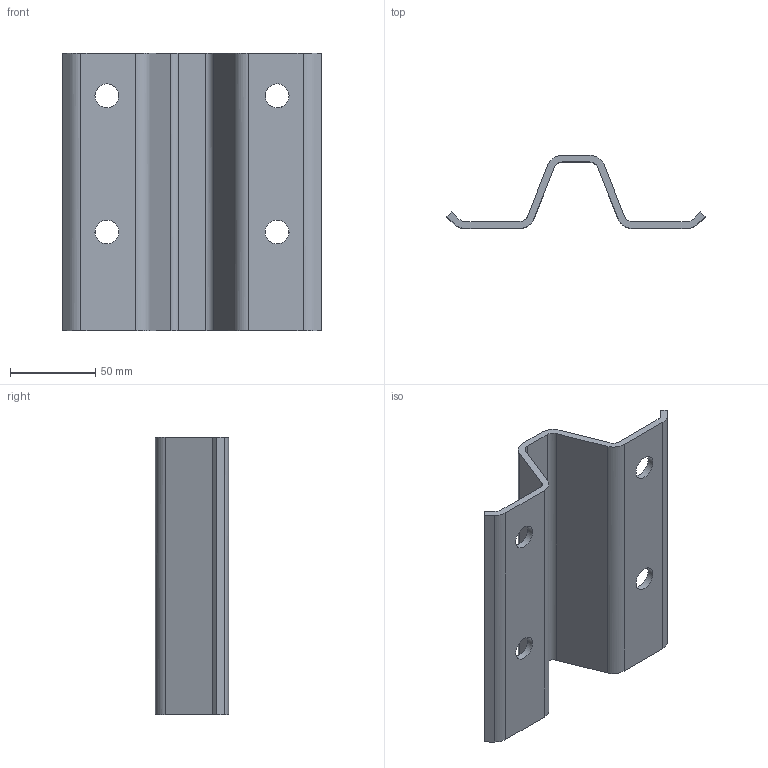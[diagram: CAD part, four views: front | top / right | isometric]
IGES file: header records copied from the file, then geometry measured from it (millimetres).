
Global section: file name: ZC185; native system: Autodesk RealDWG; preprocessor: Autodesk Translation Framework DWG producer (atf_dwg_producer); organization: unknown; date: 20230703.111815; units: centimetre
Bounding box: 151.72 x 43 x 163 mm (x, y, z)
Volume: 129125.8 mm3; surface area: 68185.8 mm2
Topology: 1 solids, 1 shells, 34 faces, 104 edges, 72 vertices
Faces by surface type: bspline 34
